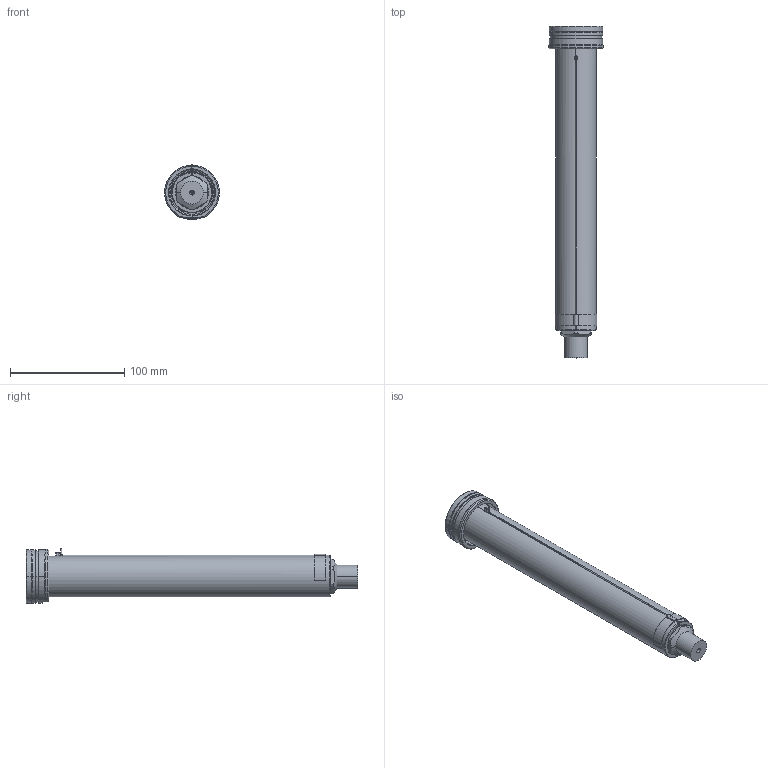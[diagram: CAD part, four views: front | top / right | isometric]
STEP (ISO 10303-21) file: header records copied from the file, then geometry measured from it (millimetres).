
FILE_DESCRIPTION((''),'2;1');
FILE_NAME('EO16_PG-FBE_STD_260_SW','2024-02-19T12:07:54',('sundharh'),(''),'CREO PARAMETRIC BY PTC INC, 2023154','CREO PARAMETRIC BY PTC INC, 2023154','');
FILE_SCHEMA(('CONFIG_CONTROL_DESIGN'));
Length unit declared in the file: millimetre
Products named in the file (1): EO16_PG-FBE_STD_260_SW
Bounding box: 47.97 x 290 x 48 mm (x, y, z)
Volume: 231701.4 mm3; surface area: 56169.4 mm2
Topology: 1 solids, 1 shells, 207 faces, 542 edges, 333 vertices
Faces by surface type: cylinder 81, plane 59, cone 43, torus 14, bspline 7, sphere 3
Entity records: 7628 total; most frequent: CARTESIAN_POINT 2436, DIRECTION 1149, ORIENTED_EDGE 1068, EDGE_CURVE 534, AXIS2_PLACEMENT_3D 479, VERTEX_POINT 333, CIRCLE 279, EDGE_LOOP 225
